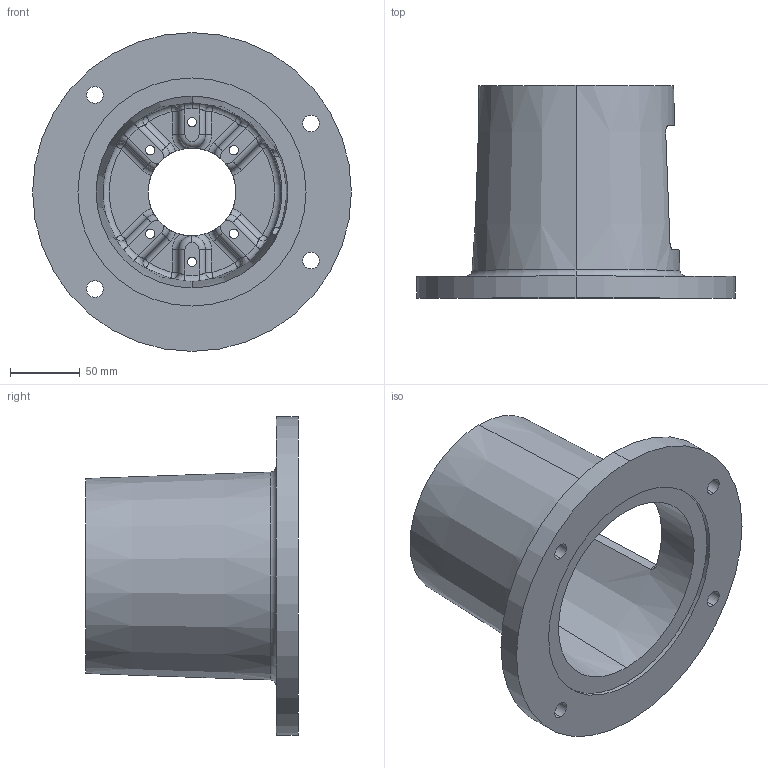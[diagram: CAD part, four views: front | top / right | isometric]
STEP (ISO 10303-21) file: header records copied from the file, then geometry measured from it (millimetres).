
FILE_DESCRIPTION (( 'STEP AP203' ), '1' );
FILE_NAME ('E6446063M.STEP', '2014-11-03T18:03:24', ( '' ), ( '' ), 'SwSTEP 2.0', 'SolidWorks 2014', '' );
FILE_SCHEMA (( 'CONFIG_CONTROL_DESIGN' ));
Length unit declared in the file: inch
Products named in the file (1): E6446063M
Bounding box: 228.6 x 152.4 x 228.6 mm (x, y, z)
Volume: 837810.3 mm3; surface area: 202841.7 mm2
Topology: 1 solids, 1 shells, 176 faces, 438 edges, 254 vertices
Faces by surface type: cylinder 65, torus 39, plane 32, bspline 24, sphere 12, cone 4
Entity records: 7126 total; most frequent: CARTESIAN_POINT 2969, DIRECTION 887, ORIENTED_EDGE 852, EDGE_CURVE 426, AXIS2_PLACEMENT_3D 390, VERTEX_POINT 254, CIRCLE 237, EDGE_LOOP 202
